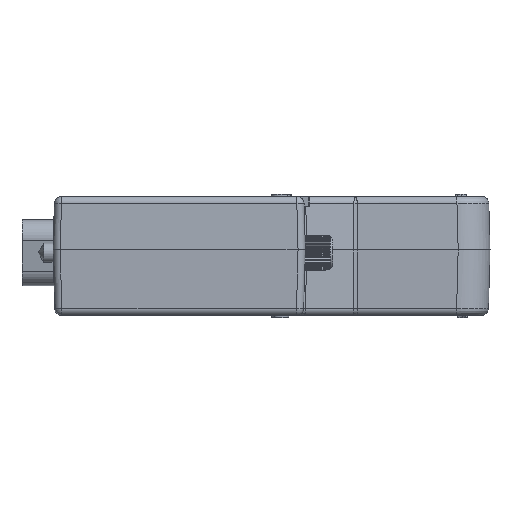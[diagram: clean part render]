
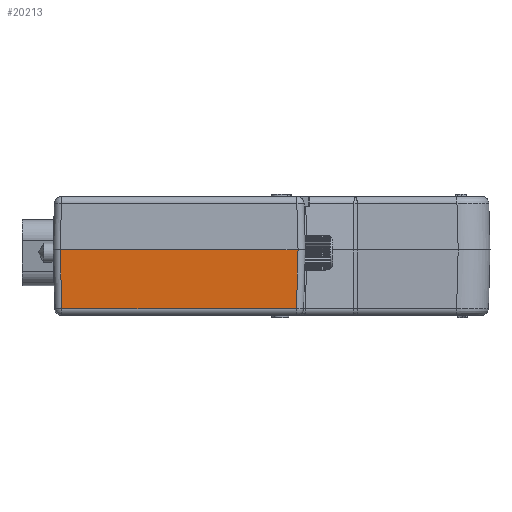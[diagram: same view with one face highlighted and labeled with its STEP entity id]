
A CAD part, left-side view. The second image highlights one B-rep face of the part: STEP entity #20213.
In plain terms, the highlighted planar face has unit normal (-1, 0, -0.026).
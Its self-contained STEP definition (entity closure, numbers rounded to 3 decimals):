
#9116=PLANE('',#50002);
#10822=FACE_OUTER_BOUND('',#23451,.T.);
#12485=LINE('',#64426,#16019);
#13627=LINE('',#70522,#17253);
#13768=LINE('',#71883,#17394);
#13770=LINE('',#71886,#17396);
#16019=VECTOR('',#52995,1.);
#17253=VECTOR('',#55987,1.);
#17394=VECTOR('',#56510,1.);
#17396=VECTOR('',#56514,1.);
#20213=ADVANCED_FACE('117131',(#10822),#9116,.T.);
#23451=EDGE_LOOP('',(#29665,#29666,#29667,#29668));
#29665=ORIENTED_EDGE('',*,*,#43709,.T.);
#29666=ORIENTED_EDGE('',*,*,#43450,.T.);
#29667=ORIENTED_EDGE('',*,*,#43707,.T.);
#29668=ORIENTED_EDGE('',*,*,#41735,.F.);
#37716=VERTEX_POINT('',#64425);
#37717=VERTEX_POINT('',#64427);
#38796=VERTEX_POINT('',#70517);
#38797=VERTEX_POINT('',#70521);
#41735=EDGE_CURVE('',#37716,#37717,#12485,.T.);
#43450=EDGE_CURVE('',#38796,#38797,#13627,.T.);
#43707=EDGE_CURVE('',#38797,#37717,#13768,.T.);
#43709=EDGE_CURVE('',#37716,#38796,#13770,.T.);
#50002=AXIS2_PLACEMENT_3D('',#71887,#56515,#56516);
#52995=DIRECTION('',(0.,-1.,0.));
#55987=DIRECTION('',(0.,-1.,0.));
#56510=DIRECTION('',(-0.026,-0.026,0.999));
#56514=DIRECTION('',(0.026,-0.026,-0.999));
#56515=DIRECTION('',(-1.,0.,-0.026));
#56516=DIRECTION('',(0.026,0.,-1.));
#64425=CARTESIAN_POINT('',(-17.487,-1.,0.));
#64426=CARTESIAN_POINT('',(-17.487,0.,0.));
#64427=CARTESIAN_POINT('',(-17.487,-34.6,0.));
#70517=CARTESIAN_POINT('',(-17.269,-1.218,-8.326));
#70521=CARTESIAN_POINT('',(-17.269,-34.382,-8.326));
#70522=CARTESIAN_POINT('',(-17.269,-34.357,-8.326));
#71883=CARTESIAN_POINT('',(-17.24,-34.353,-9.44));
#71886=CARTESIAN_POINT('',(-17.225,-1.262,-10.));
#71887=CARTESIAN_POINT('',(-17.244,-28.5,-9.287));
